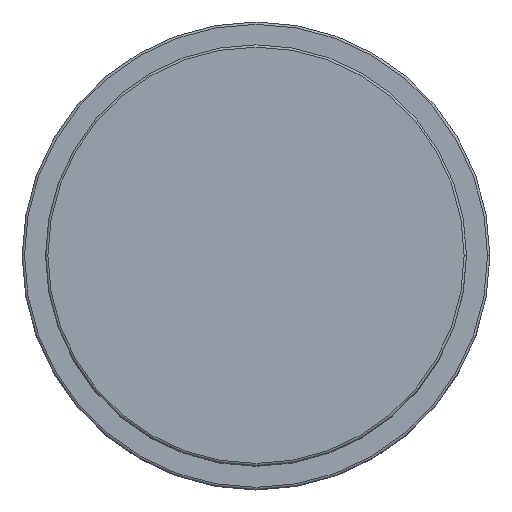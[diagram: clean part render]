
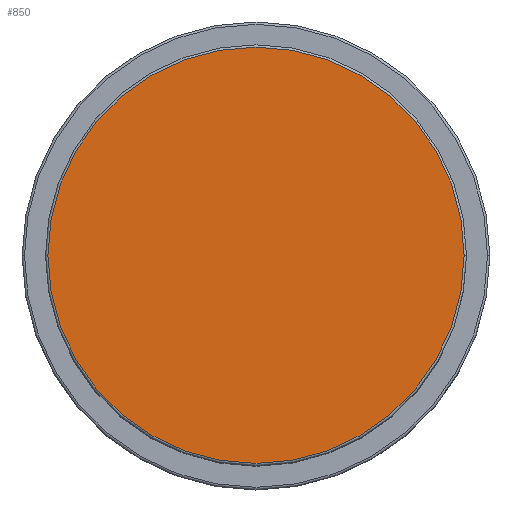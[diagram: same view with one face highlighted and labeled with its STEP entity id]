
A CAD part, top view. The second image highlights one B-rep face of the part: STEP entity #850.
In plain terms, the highlighted planar face has unit normal (0, 0, 1).
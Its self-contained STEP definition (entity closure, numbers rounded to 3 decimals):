
#14 = CIRCLE ( 'NONE', #29, 44.5 ) ;
#21 = EDGE_CURVE ( 'NONE', #1762, #55, #14, .T. ) ;
#29 = AXIS2_PLACEMENT_3D ( 'NONE', #1747, #774, #1737 ) ;
#55 = VERTEX_POINT ( 'NONE', #1603 ) ;
#168 = EDGE_CURVE ( 'NONE', #55, #1762, #404, .T. ) ;
#241 = CARTESIAN_POINT ( 'NONE',  ( 44.5, 0., 87. ) ) ;
#297 = CARTESIAN_POINT ( 'NONE',  ( 0., 0., 87. ) ) ;
#348 = DIRECTION ( 'NONE',  ( 1., 0., 0. ) ) ;
#404 = CIRCLE ( 'NONE', #1440, 44.5 ) ;
#410 = EDGE_LOOP ( 'NONE', ( #1421, #1191 ) ) ;
#600 = DIRECTION ( 'NONE',  ( 1., 0., 0. ) ) ;
#625 = DIRECTION ( 'NONE',  ( 0., 0., 1. ) ) ;
#774 = DIRECTION ( 'NONE',  ( 0., 0., 1. ) ) ;
#850 = ADVANCED_FACE ( 'NONE', ( #1392 ), #1563, .T. ) ;
#1191 = ORIENTED_EDGE ( 'NONE', *, *, #168, .T. ) ;
#1284 = CARTESIAN_POINT ( 'NONE',  ( 0., 0., 87. ) ) ;
#1392 = FACE_OUTER_BOUND ( 'NONE', #410, .T. ) ;
#1407 = DIRECTION ( 'NONE',  ( 0., 0., 1. ) ) ;
#1421 = ORIENTED_EDGE ( 'NONE', *, *, #21, .T. ) ;
#1440 = AXIS2_PLACEMENT_3D ( 'NONE', #297, #1407, #600 ) ;
#1563 = PLANE ( 'NONE',  #1760 ) ;
#1603 = CARTESIAN_POINT ( 'NONE',  ( -44.5, 0., 87. ) ) ;
#1737 = DIRECTION ( 'NONE',  ( 1., 0., 0. ) ) ;
#1747 = CARTESIAN_POINT ( 'NONE',  ( 0., 0., 87. ) ) ;
#1760 = AXIS2_PLACEMENT_3D ( 'NONE', #1284, #625, #348 ) ;
#1762 = VERTEX_POINT ( 'NONE', #241 ) ;
